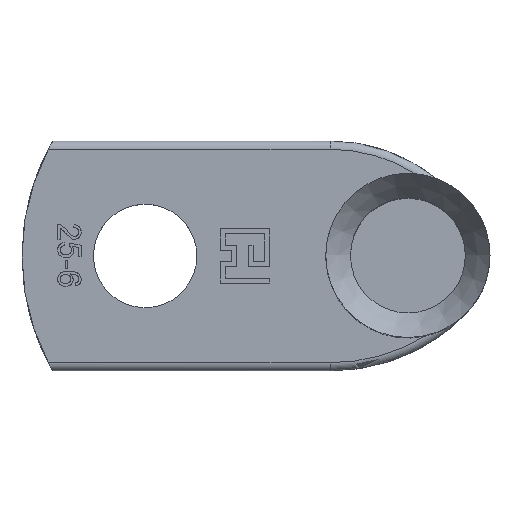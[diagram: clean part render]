
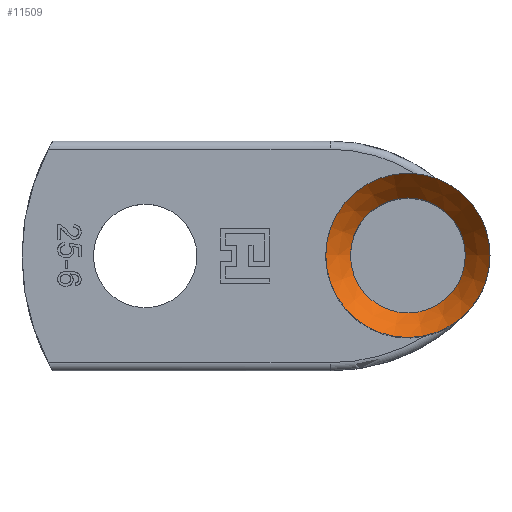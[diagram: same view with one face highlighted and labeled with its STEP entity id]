
A CAD part, top view. The second image highlights one B-rep face of the part: STEP entity #11509.
In plain terms, the highlighted conical face has half-angle 36.87 degrees and reference radius 3.5 mm.
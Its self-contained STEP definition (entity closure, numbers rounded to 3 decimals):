
#140 = CYLINDRICAL_SURFACE('',#141,5.);
#141 = AXIS2_PLACEMENT_3D('',#142,#143,#144);
#142 = CARTESIAN_POINT('',(23.5,0.,7.861));
#143 = DIRECTION('',(-0.,-0.,-1.));
#144 = DIRECTION('',(1.,0.,0.));
#11458 = VERTEX_POINT('',#11459);
#11459 = CARTESIAN_POINT('',(28.5,0.,22.861));
#11479 = EDGE_CURVE('',#11458,#11458,#11480,.T.);
#11480 = SURFACE_CURVE('',#11481,(#11486,#11493),.PCURVE_S1.);
#11481 = CIRCLE('',#11482,5.);
#11482 = AXIS2_PLACEMENT_3D('',#11483,#11484,#11485);
#11483 = CARTESIAN_POINT('',(23.5,0.,22.861));
#11484 = DIRECTION('',(0.,0.,1.));
#11485 = DIRECTION('',(1.,0.,0.));
#11486 = PCURVE('',#140,#11487);
#11487 = DEFINITIONAL_REPRESENTATION('',(#11488),#11492);
#11488 = LINE('',#11489,#11490);
#11489 = CARTESIAN_POINT('',(-0.,-15.));
#11490 = VECTOR('',#11491,1.);
#11491 = DIRECTION('',(-1.,0.));
#11492 = ( GEOMETRIC_REPRESENTATION_CONTEXT(2) 
PARAMETRIC_REPRESENTATION_CONTEXT() REPRESENTATION_CONTEXT('2D SPACE',''
  ) );
#11493 = PCURVE('',#11494,#11499);
#11494 = CONICAL_SURFACE('',#11495,3.5,0.644);
#11495 = AXIS2_PLACEMENT_3D('',#11496,#11497,#11498);
#11496 = CARTESIAN_POINT('',(23.5,0.,20.861));
#11497 = DIRECTION('',(0.,0.,1.));
#11498 = DIRECTION('',(1.,0.,0.));
#11499 = DEFINITIONAL_REPRESENTATION('',(#11500),#11503);
#11500 = B_SPLINE_CURVE_WITH_KNOTS('',1,(#11501,#11502),.UNSPECIFIED.,
  .F.,.F.,(2,2),(0.,6.283),.PIECEWISE_BEZIER_KNOTS.);
#11501 = CARTESIAN_POINT('',(0.,2.));
#11502 = CARTESIAN_POINT('',(6.283,2.));
#11503 = ( GEOMETRIC_REPRESENTATION_CONTEXT(2) 
PARAMETRIC_REPRESENTATION_CONTEXT() REPRESENTATION_CONTEXT('2D SPACE',''
  ) );
#11509 = ADVANCED_FACE('',(#11510),#11494,.F.);
#11510 = FACE_BOUND('',#11511,.F.);
#11511 = EDGE_LOOP('',(#11512,#11513,#11536,#11563));
#11512 = ORIENTED_EDGE('',*,*,#11479,.F.);
#11513 = ORIENTED_EDGE('',*,*,#11514,.F.);
#11514 = EDGE_CURVE('',#11515,#11458,#11517,.T.);
#11515 = VERTEX_POINT('',#11516);
#11516 = CARTESIAN_POINT('',(27.,0.,20.861));
#11517 = SEAM_CURVE('',#11518,(#11522,#11529),.PCURVE_S1.);
#11518 = LINE('',#11519,#11520);
#11519 = CARTESIAN_POINT('',(27.,0.,20.861));
#11520 = VECTOR('',#11521,1.);
#11521 = DIRECTION('',(0.6,0.,0.8));
#11522 = PCURVE('',#11494,#11523);
#11523 = DEFINITIONAL_REPRESENTATION('',(#11524),#11528);
#11524 = LINE('',#11525,#11526);
#11525 = CARTESIAN_POINT('',(6.283,-0.));
#11526 = VECTOR('',#11527,1.);
#11527 = DIRECTION('',(0.,1.));
#11528 = ( GEOMETRIC_REPRESENTATION_CONTEXT(2) 
PARAMETRIC_REPRESENTATION_CONTEXT() REPRESENTATION_CONTEXT('2D SPACE',''
  ) );
#11529 = PCURVE('',#11494,#11530);
#11530 = DEFINITIONAL_REPRESENTATION('',(#11531),#11535);
#11531 = LINE('',#11532,#11533);
#11532 = CARTESIAN_POINT('',(0.,-0.));
#11533 = VECTOR('',#11534,1.);
#11534 = DIRECTION('',(0.,1.));
#11535 = ( GEOMETRIC_REPRESENTATION_CONTEXT(2) 
PARAMETRIC_REPRESENTATION_CONTEXT() REPRESENTATION_CONTEXT('2D SPACE',''
  ) );
#11536 = ORIENTED_EDGE('',*,*,#11537,.T.);
#11537 = EDGE_CURVE('',#11515,#11515,#11538,.T.);
#11538 = SURFACE_CURVE('',#11539,(#11544,#11551),.PCURVE_S1.);
#11539 = CIRCLE('',#11540,3.5);
#11540 = AXIS2_PLACEMENT_3D('',#11541,#11542,#11543);
#11541 = CARTESIAN_POINT('',(23.5,0.,20.861));
#11542 = DIRECTION('',(0.,0.,1.));
#11543 = DIRECTION('',(1.,0.,0.));
#11544 = PCURVE('',#11494,#11545);
#11545 = DEFINITIONAL_REPRESENTATION('',(#11546),#11550);
#11546 = LINE('',#11547,#11548);
#11547 = CARTESIAN_POINT('',(0.,0.));
#11548 = VECTOR('',#11549,1.);
#11549 = DIRECTION('',(1.,0.));
#11550 = ( GEOMETRIC_REPRESENTATION_CONTEXT(2) 
PARAMETRIC_REPRESENTATION_CONTEXT() REPRESENTATION_CONTEXT('2D SPACE',''
  ) );
#11551 = PCURVE('',#11552,#11557);
#11552 = CYLINDRICAL_SURFACE('',#11553,3.5);
#11553 = AXIS2_PLACEMENT_3D('',#11554,#11555,#11556);
#11554 = CARTESIAN_POINT('',(23.5,0.,7.861));
#11555 = DIRECTION('',(-0.,-0.,-1.));
#11556 = DIRECTION('',(1.,0.,0.));
#11557 = DEFINITIONAL_REPRESENTATION('',(#11558),#11562);
#11558 = LINE('',#11559,#11560);
#11559 = CARTESIAN_POINT('',(-0.,-13.));
#11560 = VECTOR('',#11561,1.);
#11561 = DIRECTION('',(-1.,0.));
#11562 = ( GEOMETRIC_REPRESENTATION_CONTEXT(2) 
PARAMETRIC_REPRESENTATION_CONTEXT() REPRESENTATION_CONTEXT('2D SPACE',''
  ) );
#11563 = ORIENTED_EDGE('',*,*,#11514,.T.);
